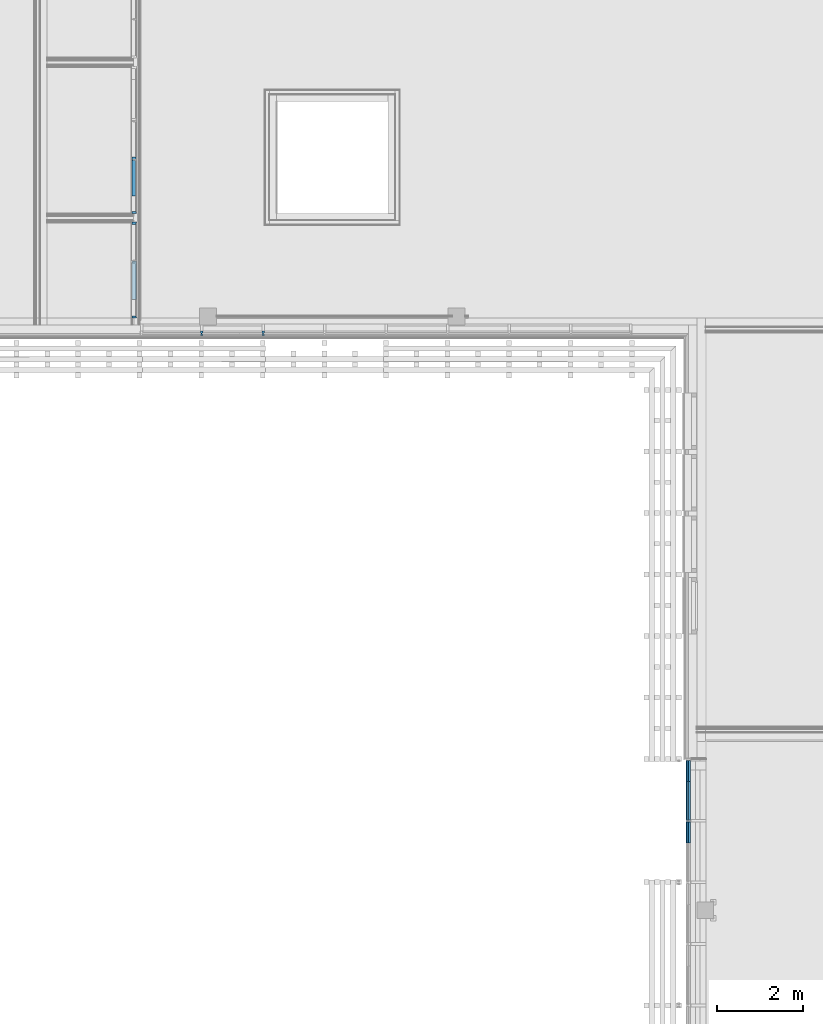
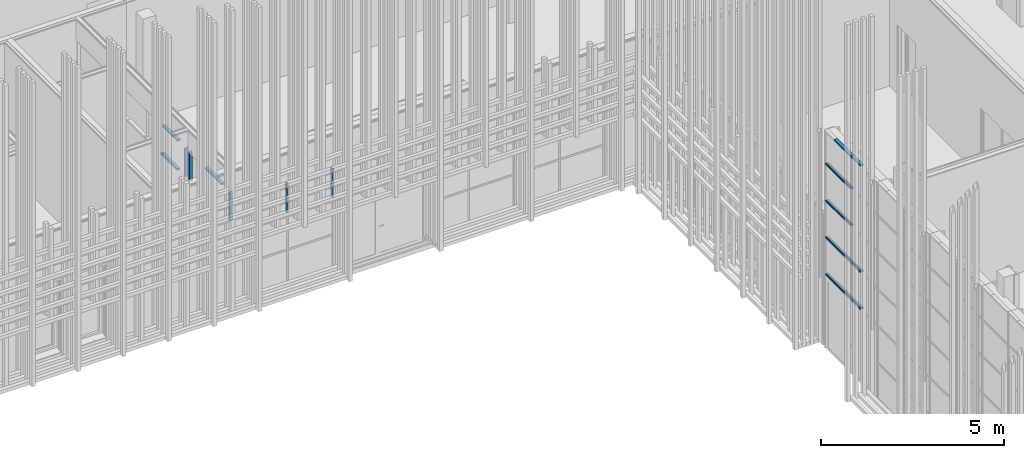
# One storey, part 44 of 260: 21 members, 4 elements without a shape of their own.
"""IFC2X3 building model written with IfcOpenShell, lengths in millimetres."""

from ifc_helpers import new_model, entity, si_unit, converted_unit, derived_unit, money_unit, direction, frame, origin_with_axes, place, context, subcontext, project, spatial, faceted_brep, source, transform, mapped, material, type_object, element, aggregate, save


model = new_model("IFC2X3")

# Units and contexts
model_context = context("Model", 3, precision=0.01, world=origin_with_axes(), true_north=direction((0.0, 1.0)))
body_context = subcontext(model_context, "Body", "Model", "MODEL_VIEW")
ifc_project = project(units=[si_unit("LENGTHUNIT", "METRE", prefix="MILLI"), si_unit("AREAUNIT", "SQUARE_METRE"), si_unit("VOLUMEUNIT", "CUBIC_METRE"), converted_unit("PLANEANGLEUNIT", "DEGREE", entity("IfcPlaneAngleMeasure", 0.0174532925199), si_unit("PLANEANGLEUNIT", "RADIAN"), dimensions=[0, 0, 0, 0, 0, 0, 0]), money_unit("EUR"), converted_unit("TIMEUNIT", "Year", entity("IfcTimeMeasure", 31556926.0), si_unit("TIMEUNIT", "SECOND"), dimensions=[0, 0, 1, 0, 0, 0, 0]), si_unit("MASSUNIT", "GRAM", prefix="KILO"), si_unit("THERMODYNAMICTEMPERATUREUNIT", "DEGREE_CELSIUS"), si_unit("LUMINOUSINTENSITYUNIT", "LUMEN"), si_unit("ENERGYUNIT", "JOULE", prefix="MEGA"), derived_unit("THERMALCONDUCTANCEUNIT", [(si_unit("POWERUNIT", "WATT"), 1), (si_unit("LENGTHUNIT", "METRE"), -1), (si_unit("THERMODYNAMICTEMPERATUREUNIT", "KELVIN"), -1)]), derived_unit("SPECIFICHEATCAPACITYUNIT", [(si_unit("ENERGYUNIT", "JOULE"), 1), (si_unit("MASSUNIT", "GRAM", prefix="KILO"), -1), (si_unit("THERMODYNAMICTEMPERATUREUNIT", "KELVIN"), -1)]), derived_unit("MASSDENSITYUNIT", [(si_unit("MASSUNIT", "GRAM", prefix="KILO"), 1), (si_unit("VOLUMEUNIT", "CUBIC_METRE"), -1)])], contexts=[model_context])

# Site, building, storey
site_placement = place(None, origin_with_axes())
site = spatial("IfcSite", under=ifc_project, at=site_placement, Name="Kolde pst 67a", CompositionType="ELEMENT")
building_placement = place(site_placement, origin_with_axes())
building = spatial("IfcBuilding", under=site, at=building_placement, Name="Riigigümnaasium", CompositionType="ELEMENT")
storey_placement = place(building_placement, origin_with_axes())
storey = spatial("IfcBuildingStorey", under=building, at=storey_placement, Name="1. korrus", CompositionType="ELEMENT", Elevation=0.0)

# Curtain wall, members
curtain_wall_type = type_object("IfcCurtainWallType", Name="Curtain Wall Type", PredefinedType="NOTDEFINED")
curtain_wall_1_placement = place(storey_placement, frame((47829.9854655, 8727.77020058, -0.000749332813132), z_axis=(0.0, 0.0, 1.0), x_axis=(1.0, 0.0, 0.0)))
curtain_wall_1 = element("IfcCurtainWall", 1, at=curtain_wall_1_placement, inside=storey, type_object=curtain_wall_type, Name="KLAASFASSAAD")
ifc_material_1 = material(Name="_METALL - alumiinium")
member_type_1 = type_object("IfcMemberType", Name="Boundary Frame 50 x 100", PredefinedType="MEMBER")
shared_shape_1 = source(origin_with_axes(), body_context, "Body", "Brep", [
    faceted_brep([(-30.0, -16.5, 920.000003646), (-50.0, -16.5, 920.000003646), (-50.0, -60.0, 920.000003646), (0.0, -60.0, 920.000003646), (0.0, 40.0, 920.000003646), (-50.0, 40.0, 920.000003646), (-50.0, 16.5, 920.000003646), (-30.0, 16.5, 920.000003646), (-30.0, -16.5, 0.0), (-50.0, -16.5, 0.0), (-50.0, -60.0, 0.0), (0.0, -60.0, 0.0), (0.0, 40.0, 0.0), (-50.0, 40.0, 0.0), (-50.0, 16.5, 0.0), (-30.0, 16.5, 0.0)], [[[0, 1, 2, 3, 4, 5, 6, 7]], [[0, 8, 9, 1]], [[9, 10, 2, 1]], [[10, 11, 3, 2]], [[11, 12, 4, 3]], [[12, 13, 5, 4]], [[6, 5, 13, 14]], [[14, 15, 7, 6]], [[7, 15, 8, 0]], [[8, 15, 14, 13, 12, 11, 10, 9]]]),
])
member_1_placement = place(curtain_wall_1_placement, frame((-23999.8801093, 28707.2742142, 7259.99963417), z_axis=(-7.64768489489e-06, -0.999999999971, 0.0), x_axis=(0.0, 0.0, -1.0)))
member_1 = element("IfcMember", 2, at=member_1_placement, type_object=member_type_1, material=ifc_material_1, Name="RF RAAM SERV-653", ObjectType="MEMBER", context=body_context, shape_type="MappedRepresentation", body=[
    mapped(shared_shape_1, transform((0.0, 0.0, 0.0), x_axis=(-1.0, 0.0, 0.0), y_axis=(0.0, -0.999999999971, 7.64768489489e-06), z_axis=(0.0, 7.64768489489e-06, 0.999999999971))),
])
member_type_2 = type_object("IfcMemberType", Name="Transom Frame 50 x 100", PredefinedType="MEMBER")
shared_shape_2 = source(origin_with_axes(), body_context, "Body", "Brep", [
    faceted_brep([(5.0, -16.5, 919.999993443), (5.0, 16.5, 919.999993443), (25.0, 16.5, 919.999993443), (25.0, 40.0, 919.999993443), (-25.0, 40.0, 919.999993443), (-25.0, 16.5, 919.999993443), (-5.0, 16.5, 919.999993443), (-5.0, -16.5, 919.999993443), (-25.0, -16.5, 919.999993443), (-25.0, -60.0, 919.999993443), (25.0, -60.0, 919.999993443), (25.0, -16.5, 919.999993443), (5.0, -16.5, 25.0000001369), (5.0, 16.5, 24.9999998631), (25.0, 16.5, 24.9999998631), (25.0, 40.0, 24.9999996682), (-25.0, 40.0, 24.9999996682), (-25.0, 16.5, 24.9999998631), (-5.0, 16.5, 24.9999998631), (-5.0, -16.5, 25.0000001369), (-25.0, -16.5, 25.0000001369), (-25.0, -60.0, 25.0000004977), (25.0, -60.0, 25.0000004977), (25.0, -16.5, 25.0000001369)], [[[0, 1, 2, 3, 4, 5, 6, 7, 8, 9, 10, 11]], [[0, 12, 13, 1]], [[1, 13, 14, 2]], [[14, 15, 3, 2]], [[4, 3, 15, 16]], [[17, 5, 4, 16]], [[5, 17, 18, 6]], [[7, 6, 18, 19]], [[8, 7, 19, 20]], [[8, 20, 21, 9]], [[10, 9, 21, 22]], [[11, 10, 22, 23]], [[11, 23, 12, 0]], [[13, 12, 23, 22, 21, 20, 19, 18, 17, 16, 15, 14]]]),
])
member_2_placement = place(curtain_wall_1_placement, frame((-23999.8871451, 27787.2742207, 2460.00074933), z_axis=(7.64768489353e-06, 0.999999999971, 0.0), x_axis=(0.0, 0.0, 1.0)))
member_2 = element("IfcMember", 3, at=member_2_placement, type_object=member_type_2, material=ifc_material_1, Name="RF RAAM HOR-320", ObjectType="MEMBER", context=body_context, shape_type="MappedRepresentation", body=[
    mapped(shared_shape_2, transform((0.0, 0.0, 0.0), x_axis=(-1.0, 0.0, 0.0), y_axis=(0.0, -1.0, 0.0), z_axis=(0.0, 0.0, 1.0))),
])
member_3_placement = place(curtain_wall_1_placement, frame((-23999.8871451, 27787.2742207, 3690.00074933), z_axis=(7.64768489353e-06, 0.999999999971, 0.0), x_axis=(0.0, 0.0, 1.0)))
member_3 = element("IfcMember", 4, at=member_3_placement, type_object=member_type_2, material=ifc_material_1, Name="RF RAAM HOR-331", ObjectType="MEMBER", context=body_context, shape_type="MappedRepresentation", body=[
    mapped(shared_shape_2, transform((0.0, 0.0, 0.0), x_axis=(-1.0, 0.0, 0.0), y_axis=(0.0, -1.0, 0.0), z_axis=(0.0, 0.0, 1.0))),
])
member_4_placement = place(curtain_wall_1_placement, frame((-23999.8871451, 27787.2742207, 4920.00074933), z_axis=(7.64768489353e-06, 0.999999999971, 0.0), x_axis=(0.0, 0.0, 1.0)))
member_4 = element("IfcMember", 5, at=member_4_placement, type_object=member_type_2, material=ifc_material_1, Name="RF RAAM HOR-342", ObjectType="MEMBER", context=body_context, shape_type="MappedRepresentation", body=[
    mapped(shared_shape_2, transform((0.0, 0.0, 0.0), x_axis=(-1.0, 0.0, 0.0), y_axis=(0.0, -1.0, 0.0), z_axis=(0.0, 0.0, 1.0))),
])
member_5_placement = place(curtain_wall_1_placement, frame((-23999.8871451, 27787.2742153, 6150.00074933), z_axis=(7.64768489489e-06, 0.999999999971, 0.0), x_axis=(0.0, 0.0, 1.0)))
member_5 = element("IfcMember", 6, at=member_5_placement, type_object=member_type_2, material=ifc_material_1, Name="RF RAAM HOR-353", ObjectType="MEMBER", context=body_context, shape_type="MappedRepresentation", body=[
    mapped(shared_shape_2, transform((0.0, 0.0, 0.0), x_axis=(-1.0, 0.0, 0.0), y_axis=(0.0, -1.0, 0.0), z_axis=(0.0, 0.0, 1.0))),
])
shared_shape_3 = source(origin_with_axes(), body_context, "Body", "Brep", [
    faceted_brep([(5.0, -16.5, 485.000001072), (5.0, 16.5, 485.000001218), (25.0, 16.5, 485.000001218), (25.0, 40.0, 485.000001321), (-25.0, 40.0, 485.000001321), (-25.0, 16.5, 485.000001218), (-5.0, 16.5, 485.000001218), (-5.0, -16.5, 485.000001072), (-25.0, -16.5, 485.000001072), (-25.0, -60.0, 485.000000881), (25.0, -60.0, 485.000000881), (25.0, -16.5, 485.000001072), (5.0, -16.5, 0.0), (5.0, 16.5, 0.0), (25.0, 16.5, 0.0), (25.0, 40.0, 0.0), (-25.0, 40.0, 0.0), (-25.0, 16.5, 0.0), (-5.0, 16.5, 0.0), (-5.0, -16.5, 0.0), (-25.0, -16.5, 0.0), (-25.0, -60.0, 0.0), (25.0, -60.0, 0.0), (25.0, -16.5, 0.0)], [[[0, 1, 2, 3, 4, 5, 6, 7, 8, 9, 10, 11]], [[0, 12, 13, 1]], [[1, 13, 14, 2]], [[14, 15, 3, 2]], [[3, 15, 16, 4]], [[17, 5, 4, 16]], [[5, 17, 18, 6]], [[7, 6, 18, 19]], [[8, 7, 19, 20]], [[8, 20, 21, 9]], [[9, 21, 22, 10]], [[11, 10, 22, 23]], [[11, 23, 12, 0]], [[13, 12, 23, 22, 21, 20, 19, 18, 17, 16, 15, 14]]]),
])
member_6_placement = place(curtain_wall_1_placement, frame((-23999.8910454, 27277.2742142, 3690.00074933), z_axis=(7.64768489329e-06, 0.999999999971, 0.0), x_axis=(0.0, 0.0, 1.0)))
member_6 = element("IfcMember", 7, at=member_6_placement, type_object=member_type_2, material=ifc_material_1, Name="RF RAAM HOR-601", ObjectType="MEMBER", context=body_context, shape_type="MappedRepresentation", body=[
    mapped(shared_shape_3, transform((0.0, 0.0, 0.0), x_axis=(-1.0, 0.0, 0.0), y_axis=(0.0, -1.0, 0.0), z_axis=(0.0, 0.0, 1.0))),
])
member_7_placement = place(curtain_wall_1_placement, frame((-23999.8910454, 27277.2742142, 2460.00074933), z_axis=(7.64768489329e-06, 0.999999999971, 0.0), x_axis=(0.0, 0.0, 1.0)))
member_7 = element("IfcMember", 8, at=member_7_placement, type_object=member_type_2, material=ifc_material_1, Name="RF RAAM HOR-602", ObjectType="MEMBER", context=body_context, shape_type="MappedRepresentation", body=[
    mapped(shared_shape_3, transform((0.0, 0.0, 0.0), x_axis=(-1.0, 0.0, 0.0), y_axis=(0.0, -1.0, 0.0), z_axis=(0.0, 0.0, 1.0))),
])
shared_shape_4 = source(origin_with_axes(), body_context, "Body", "Brep", [
    faceted_brep([(-30.0, -16.5, 510.000003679), (-50.0, -16.5, 510.000003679), (-50.0, -60.0, 510.000003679), (0.0, -60.0, 510.000003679), (0.0, 40.0, 510.000003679), (-50.0, 40.0, 510.000003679), (-50.0, 16.5, 510.000003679), (-30.0, 16.5, 510.000003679), (-30.0, -16.5, 0.0), (-50.0, -16.5, 0.0), (-50.0, -60.0, 0.0), (0.0, -60.0, 0.0), (0.0, 40.0, 0.0), (-50.0, 40.0, 0.0), (-50.0, 16.5, 0.0), (-30.0, 16.5, 0.0)], [[[0, 1, 2, 3, 4, 5, 6, 7]], [[0, 8, 9, 1]], [[9, 10, 2, 1]], [[10, 11, 3, 2]], [[11, 12, 4, 3]], [[12, 13, 5, 4]], [[6, 5, 13, 14]], [[14, 15, 7, 6]], [[7, 15, 8, 0]], [[8, 15, 14, 13, 12, 11, 10, 9]]]),
])
member_8_placement = place(curtain_wall_1_placement, frame((-23999.8871451, 27787.2742153, 7259.99963417), z_axis=(-7.64768489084e-06, -0.999999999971, 0.0), x_axis=(0.0, 0.0, -1.0)))
member_8 = element("IfcMember", 9, at=member_8_placement, type_object=member_type_1, material=ifc_material_1, Name="RF RAAM SERV-653", ObjectType="MEMBER", context=body_context, shape_type="MappedRepresentation", body=[
    mapped(shared_shape_4, transform((0.0, 0.0, 0.0), x_axis=(-1.0, 0.0, 0.0), y_axis=(0.0, -0.999999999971, 7.64768489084e-06), z_axis=(0.0, 7.64768489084e-06, 0.999999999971))),
])
shared_shape_5 = source(origin_with_axes(), body_context, "Body", "Brep", [
    faceted_brep([(5.0, -16.5, 485.453702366), (5.0, 16.5, 485.453702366), (25.0, 16.5, 485.453702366), (25.0, 40.0, 485.453702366), (-25.0, 40.0, 485.453702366), (-25.0, 16.5, 485.453702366), (-5.0, 16.5, 485.453702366), (-5.0, -16.5, 485.453702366), (-25.0, -16.5, 485.453702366), (-25.0, -60.0, 485.453702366), (25.0, -60.0, 485.453702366), (25.0, -16.5, 485.453702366), (5.0, -16.5, 0.0), (5.0, 16.5, 0.0), (25.0, 16.5, 0.0), (25.0, 40.0, 0.0), (-25.0, 40.0, 0.0), (-25.0, 16.5, 0.0), (-5.0, 16.5, 0.0), (-5.0, -16.5, 0.0), (-25.0, -16.5, 0.0), (-25.0, -60.0, 0.0), (25.0, -60.0, 0.0), (25.0, -16.5, 0.0)], [[[0, 1, 2, 3, 4, 5, 6, 7, 8, 9, 10, 11]], [[0, 12, 13, 1]], [[1, 13, 14, 2]], [[14, 15, 3, 2]], [[3, 15, 16, 4]], [[17, 5, 4, 16]], [[5, 17, 18, 6]], [[7, 6, 18, 19]], [[8, 7, 19, 20]], [[8, 20, 21, 9]], [[9, 21, 22, 10]], [[11, 10, 22, 23]], [[11, 23, 12, 0]], [[13, 12, 23, 22, 21, 20, 19, 18, 17, 16, 15, 14]]]),
])
member_9_placement = place(curtain_wall_1_placement, frame((-23999.8801093, 28707.2742142, 6150.00074933), z_axis=(7.64768489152e-06, 0.999999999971, 0.0), x_axis=(0.0, 0.0, 1.0)))
member_9 = element("IfcMember", 10, at=member_9_placement, type_object=member_type_2, material=ifc_material_1, Name="RF RAAM HOR-746", ObjectType="MEMBER", context=body_context, shape_type="MappedRepresentation", body=[
    mapped(shared_shape_5, transform((0.0, 0.0, 0.0), x_axis=(-1.0, 0.0, 0.0), y_axis=(0.0, -1.0, 0.0), z_axis=(0.0, 0.0, 1.0))),
])
member_10_placement = place(curtain_wall_1_placement, frame((-23999.8801093, 28707.2742142, 4920.00074933), z_axis=(7.64768489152e-06, 0.999999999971, 0.0), x_axis=(0.0, 0.0, 1.0)))
member_10 = element("IfcMember", 11, at=member_10_placement, type_object=member_type_2, material=ifc_material_1, Name="RF RAAM HOR-747", ObjectType="MEMBER", context=body_context, shape_type="MappedRepresentation", body=[
    mapped(shared_shape_5, transform((0.0, 0.0, 0.0), x_axis=(-1.0, 0.0, 0.0), y_axis=(0.0, -1.0, 0.0), z_axis=(0.0, 0.0, 1.0))),
])
member_11_placement = place(curtain_wall_1_placement, frame((-23999.8801093, 28707.2742142, 3690.00074933), z_axis=(7.64768489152e-06, 0.999999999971, 0.0), x_axis=(0.0, 0.0, 1.0)))
member_11 = element("IfcMember", 12, at=member_11_placement, type_object=member_type_2, material=ifc_material_1, Name="RF RAAM HOR-748", ObjectType="MEMBER", context=body_context, shape_type="MappedRepresentation", body=[
    mapped(shared_shape_5, transform((0.0, 0.0, 0.0), x_axis=(-1.0, 0.0, 0.0), y_axis=(0.0, -1.0, 0.0), z_axis=(0.0, 0.0, 1.0))),
])
member_12_placement = place(curtain_wall_1_placement, frame((-23999.8801093, 28707.2742142, 2460.00074933), z_axis=(7.64768489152e-06, 0.999999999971, 0.0), x_axis=(0.0, 0.0, 1.0)))
member_12 = element("IfcMember", 13, at=member_12_placement, type_object=member_type_2, material=ifc_material_1, Name="RF RAAM HOR-813", ObjectType="MEMBER", context=body_context, shape_type="MappedRepresentation", body=[
    mapped(shared_shape_5, transform((0.0, 0.0, 0.0), x_axis=(-1.0, 0.0, 0.0), y_axis=(0.0, -1.0, 0.0), z_axis=(0.0, 0.0, 1.0))),
])
aggregate(curtain_wall_1, [member_2, member_3, member_4, member_5, member_6, member_7, member_8, member_1, member_9, member_10, member_11, member_12])

curtain_wall_2_placement = place(storey_placement, frame((20393.1746439, 47839.7660528, -0.000116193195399), z_axis=(0.0, 0.0, 1.0), x_axis=(1.0, 0.0, 0.0)))
curtain_wall_2 = element("IfcCurtainWall", 14, at=curtain_wall_2_placement, inside=storey, type_object=curtain_wall_type, Name="KLAASFASSAAD")
member_type_3 = type_object("IfcMemberType", Name="Mullion Frame 50 x 100", PredefinedType="MEMBER")
shared_shape_6 = source(origin_with_axes(), body_context, "Body", "Brep", [
    faceted_brep([(5.0, -24.0, 980.000026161), (5.0, 24.0, 980.000028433), (25.0, 24.0, 980.000028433), (25.0, 40.0, 980.00002919), (-25.0, 40.0, 980.00002919), (-25.0, 24.0, 980.000028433), (-5.0, 24.0, 980.000028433), (-5.0, -24.0, 980.000026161), (-25.0, -24.0, 980.000026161), (-25.0, -60.0, 980.000024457), (25.0, -60.0, 980.000024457), (25.0, -24.0, 980.000026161), (5.0, -24.0, 0.0), (5.0, 24.0, 0.0), (25.0, 24.0, 0.0), (25.0, 40.0, 0.0), (-25.0, 40.0, 0.0), (-25.0, 24.0, 0.0), (-5.0, 24.0, 0.0), (-5.0, -24.0, 0.0), (-25.0, -24.0, 0.0), (-25.0, -60.0, 0.0), (25.0, -60.0, 0.0), (25.0, -24.0, 0.0)], [[[0, 1, 2, 3, 4, 5, 6, 7, 8, 9, 10, 11]], [[0, 12, 13, 1]], [[1, 13, 14, 2]], [[14, 15, 3, 2]], [[3, 15, 16, 4]], [[17, 5, 4, 16]], [[5, 17, 18, 6]], [[7, 6, 18, 19]], [[8, 7, 19, 20]], [[8, 20, 21, 9]], [[9, 21, 22, 10]], [[11, 10, 22, 23]], [[11, 23, 12, 0]], [[13, 12, 23, 22, 21, 20, 19, 18, 17, 16, 15, 14]]]),
])
member_13_placement = place(curtain_wall_2_placement, frame((-6435.0, 0.0, 2460.00011619), z_axis=(0.0, 0.0, 1.0), x_axis=(1.0, 0.0, 0.0)))
member_13 = element("IfcMember", 15, at=member_13_placement, type_object=member_type_3, material=ifc_material_1, Name="RF RAAM VERT-475", ObjectType="MEMBER", context=body_context, shape_type="MappedRepresentation", body=[
    mapped(shared_shape_6, transform((0.0, 0.0, 0.0), x_axis=(-1.0, 0.0, 0.0), y_axis=(0.0, -1.0, 0.0), z_axis=(0.0, 0.0, 1.0))),
])
member_14_placement = place(curtain_wall_2_placement, frame((-7865.0, 0.0, 2460.00011619), z_axis=(0.0, 0.0, 1.0), x_axis=(1.0, 0.0, 0.0)))
member_14 = element("IfcMember", 16, at=member_14_placement, type_object=member_type_3, material=ifc_material_1, Name="RF RAAM VERT-476", ObjectType="MEMBER", context=body_context, shape_type="MappedRepresentation", body=[
    mapped(shared_shape_6, transform((0.0, 0.0, 0.0), x_axis=(-1.0, 0.0, 0.0), y_axis=(0.0, -1.0, 0.0), z_axis=(0.0, 0.0, 1.0))),
])
aggregate(curtain_wall_2, [member_13, member_14])

# Curtain wall, member
curtain_wall_3_placement = place(storey_placement, frame((11015.3356079, 51182.3220161, 399.999976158), z_axis=(0.0, 0.0, 1.0), x_axis=(1.0, 0.0, 0.0)))
curtain_wall_3 = element("IfcCurtainWall", 17, at=curtain_wall_3_placement, inside=storey, type_object=curtain_wall_type, Name="KLAASSEIN")
ifc_material_2 = material(Name="_GENEERILINE MATERJAL")
member_type_4 = type_object("IfcMemberType", Name="Transom Frame 60 x 100", PredefinedType="MEMBER")
shared_shape_7 = source(origin_with_axes(), body_context, "Body", "Brep", [
    faceted_brep([(30.0, -10.0, 10.000000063), (30.0, -10.0, 62.9694958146), (30.0, -110.0, 62.9694958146), (30.0, -110.0, 10.0000006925), (-30.0, -10.0, 10.000000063), (-30.0, -10.0, 62.9694958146), (-30.0, -110.0, 62.9694958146), (-30.0, -110.0, 10.0000006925)], [[[0, 1, 2, 3]], [[4, 5, 1, 0]], [[2, 1, 5, 6]], [[3, 2, 6, 7]], [[3, 7, 4, 0]], [[7, 6, 5, 4]]]),
])
member_15_placement = place(curtain_wall_3_placement, frame((0.00772129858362, 694.686802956, 2100.00004956), z_axis=(1.1114790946e-05, 0.999999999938, 0.0), x_axis=(0.0, 0.0, 1.0)))
member_15 = element("IfcMember", 18, at=member_15_placement, type_object=member_type_4, material=ifc_material_2, Name="RF RAAM HOR-471", ObjectType="MEMBER", context=body_context, shape_type="MappedRepresentation", body=[
    mapped(shared_shape_7, transform((0.0, 0.0, 0.0))),
])

curtain_wall_4_placement = place(storey_placement, frame((11015.4348778, 48773.3132292, 399.999999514), z_axis=(0.0, 0.0, 1.0), x_axis=(1.0, 0.0, 0.0)))
curtain_wall_4 = element("IfcCurtainWall", 19, at=curtain_wall_4_placement, inside=storey, type_object=curtain_wall_type, Name="KLAASSEIN")
shared_shape_8 = source(origin_with_axes(), body_context, "Body", "Brep", [
    faceted_brep([(50.0, -10.0, 0.0), (50.0, -10.0, 900.000000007), (50.0, -100.0, 900.000000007), (50.0, -100.0, 0.0), (25.0, -10.0, 900.000000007), (25.0, -10.0, 0.0), (25.0, 0.0, 900.000000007), (0.0, 0.0, 900.000000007), (0.0, -100.0, 900.000000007), (0.0, -100.0, 0.0), (0.0, 0.0, 0.0), (25.0, 0.0, 0.0)], [[[0, 1, 2, 3]], [[4, 1, 0, 5]], [[4, 6, 7, 8, 2, 1]], [[3, 2, 8, 9]], [[5, 0, 3, 9, 10, 11]], [[11, 6, 4, 5]], [[6, 11, 10, 7]], [[9, 8, 7, 10]]]),
])
member_16_placement = place(curtain_wall_4_placement, frame((-0.00825933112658, 756.666196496, 3090.00002835), z_axis=(1.09154223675e-05, -0.99999999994, 0.0), x_axis=(0.0, 0.0, -1.0)))
member_16 = element("IfcMember", 20, at=member_16_placement, type_object=member_type_1, material=ifc_material_2, Name="RF RAAM SERV-340", ObjectType="MEMBER", context=body_context, shape_type="MappedRepresentation", body=[
    mapped(shared_shape_8, transform((0.0, 0.0, 0.0))),
])

# Member
shared_shape_9 = source(origin_with_axes(), body_context, "Body", "Brep", [
    faceted_brep([(30.0, -110.0, 0.0), (30.0, -10.0, 0.0), (30.0, -10.0, 827.030504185), (30.0, -110.0, 827.030504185), (-30.0, -110.0, 0.0), (-30.0, -10.0, 0.0), (-30.0, -10.0, 827.030504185), (-30.0, -110.0, 827.030504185)], [[[0, 1, 2, 3]], [[0, 4, 5, 1]], [[1, 5, 6, 2]], [[3, 2, 6, 7]], [[4, 0, 3, 7]], [[5, 4, 7, 6]]]),
])
member_17_placement = place(curtain_wall_3_placement, frame((-0.00158212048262, -142.343701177, 2100.00004956), z_axis=(1.11147909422e-05, 0.999999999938, 0.0), x_axis=(0.0, 0.0, 1.0)))
member_17 = element("IfcMember", 21, at=member_17_placement, type_object=member_type_4, material=ifc_material_2, Name="RF RAAM HOR-469", ObjectType="MEMBER", context=body_context, shape_type="MappedRepresentation", body=[
    mapped(shared_shape_9, transform((0.0, 0.0, 0.0))),
])

shared_shape_10 = source(origin_with_axes(), body_context, "Body", "Brep", [
    faceted_brep([(50.0, -10.0, 0.0), (50.0, -10.0, 837.030501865), (50.0, -100.0, 837.030501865), (50.0, -100.0, 0.0), (25.0, -10.0, 837.030501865), (25.0, -10.0, 0.0), (25.0, 0.0, 837.030501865), (0.0, 0.0, 837.030501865), (0.0, -100.0, 837.030501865), (0.0, -100.0, 0.0), (0.0, 0.0, 0.0), (25.0, 0.0, 0.0)], [[[0, 1, 2, 3]], [[4, 1, 0, 5]], [[4, 6, 7, 8, 2, 1]], [[3, 2, 8, 9]], [[5, 0, 3, 9, 10, 11]], [[11, 6, 4, 5]], [[6, 11, 10, 7]], [[9, 8, 7, 10]]]),
])
member_18_placement = place(curtain_wall_3_placement, frame((0.00772129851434, 694.686796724, 3090.0000517), z_axis=(-1.11147909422e-05, -0.999999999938, 0.0), x_axis=(0.0, 0.0, -1.0)))
member_18 = element("IfcMember", 22, at=member_18_placement, type_object=member_type_1, material=ifc_material_2, Name="RF RAAM SERV-509", ObjectType="MEMBER", context=body_context, shape_type="MappedRepresentation", body=[
    mapped(shared_shape_10, transform((0.0, 0.0, 0.0))),
])

shared_shape_11 = source(origin_with_axes(), body_context, "Body", "Brep", [
    faceted_brep([(50.0, -10.0, 49.9999994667), (50.0, -10.0, 990.000002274), (50.0, -100.0, 990.000002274), (50.0, -100.0, 49.9999994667), (25.0, -10.0, 990.000002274), (25.0, -10.0, 24.9999997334), (25.0, 0.0, 990.000002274), (0.0, 0.0, 990.000002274), (0.0, -100.0, 990.000002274), (0.0, -100.0, 0.0), (0.0, 0.0, 0.0), (25.0, 0.0, 24.9999997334)], [[[0, 1, 2, 3]], [[4, 1, 0, 5]], [[4, 6, 7, 8, 2, 1]], [[2, 8, 9, 3]], [[5, 0, 3, 9, 10, 11]], [[11, 6, 4, 5]], [[6, 11, 10, 7]], [[8, 7, 10, 9]]]),
])
member_19_placement = place(curtain_wall_3_placement, frame((-0.00613917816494, -552.343106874, 3089.99998754), z_axis=(0.0, 5.14568621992e-09, -1.0), x_axis=(1.11147909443e-05, 0.999999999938, 5.14568622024e-09)))
member_19 = element("IfcMember", 23, at=member_19_placement, type_object=member_type_1, material=ifc_material_2, Name="RF RAAM SERV-511", ObjectType="MEMBER", context=body_context, shape_type="MappedRepresentation", body=[
    mapped(shared_shape_11, transform((0.0, 0.0, 0.0))),
])

aggregate(curtain_wall_3, [member_15, member_17, member_18, member_19])

member_20_placement = place(curtain_wall_4_placement, frame((0.00625816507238, -573.33237892, 3090.00002822), z_axis=(0.0, -1.03666677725e-08, -1.0), x_axis=(-1.09154223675e-05, 0.99999999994, -1.03666677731e-08)))
member_20 = element("IfcMember", 24, at=member_20_placement, type_object=member_type_1, material=ifc_material_2, Name="RF RAAM SERV-342", ObjectType="MEMBER", context=body_context, shape_type="MappedRepresentation", body=[
    mapped(shared_shape_11, transform((0.0, 0.0, 0.0))),
])

shared_shape_12 = source(origin_with_axes(), body_context, "Body", "Brep", [
    faceted_brep([(50.0, -10.0, 0.0), (50.0, -10.0, 940.000002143), (50.0, -100.0, 940.000002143), (50.0, -100.0, 0.0), (25.0, -10.0, 965.000002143), (25.0, -10.0, 0.0), (25.0, 0.0, 965.000002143), (0.0, 0.0, 990.000002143), (0.0, -100.0, 990.000002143), (0.0, -100.0, 0.0), (0.0, 0.0, 0.0), (25.0, 0.0, 0.0)], [[[0, 1, 2, 3]], [[4, 1, 0, 5]], [[4, 6, 7, 8, 2, 1]], [[3, 2, 8, 9]], [[5, 0, 3, 9, 10, 11]], [[11, 6, 4, 5]], [[6, 11, 10, 7]], [[9, 8, 7, 10]]]),
])
member_21_placement = place(curtain_wall_4_placement, frame((-0.0180832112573, 1656.66619644, 2100.00002621), z_axis=(0.0, 0.0, 1.0), x_axis=(1.09154223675e-05, -0.99999999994, 0.0)))
member_21 = element("IfcMember", 25, at=member_21_placement, type_object=member_type_1, material=ifc_material_2, Name="RF RAAM SERV-338", ObjectType="MEMBER", context=body_context, shape_type="MappedRepresentation", body=[
    mapped(shared_shape_12, transform((0.0, 0.0, 0.0))),
])

aggregate(curtain_wall_4, [member_21, member_16, member_20])

save(model, "model.ifc")
